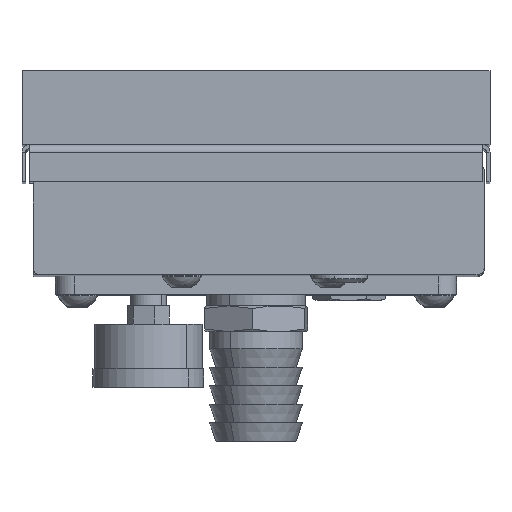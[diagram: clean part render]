
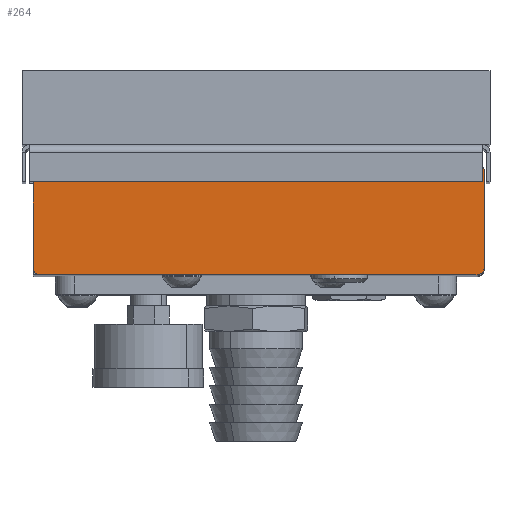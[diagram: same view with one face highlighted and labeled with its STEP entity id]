
A CAD part, top view. The second image highlights one B-rep face of the part: STEP entity #264.
In plain terms, the highlighted planar face has unit normal (0, 0, 1).
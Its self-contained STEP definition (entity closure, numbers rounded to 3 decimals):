
#264 = ADVANCED_FACE ( 'NONE', ( #8575 ), #2675, .T. ) ;
#2186 = DIRECTION ( 'NONE',  ( 1., 0., 0. ) ) ;
#2191 = CARTESIAN_POINT ( 'NONE',  ( 60.115, -2.304, 151. ) ) ;
#2276 = CARTESIAN_POINT ( 'NONE',  ( 58.115, 25.696, 151. ) ) ;
#2277 = DIRECTION ( 'NONE',  ( 0., 0., -1. ) ) ;
#2278 = DIRECTION ( 'NONE',  ( 1., 0., 0. ) ) ;
#2282 = DIRECTION ( 'NONE',  ( -1., 0., 0. ) ) ;
#2283 = CARTESIAN_POINT ( 'NONE',  ( 60.115, 27.696, 151. ) ) ;
#2287 = DIRECTION ( 'NONE',  ( 0., 1., 0. ) ) ;
#2288 = CARTESIAN_POINT ( 'NONE',  ( 60.115, -2.304, 151. ) ) ;
#2299 = CARTESIAN_POINT ( 'NONE',  ( -61.385, -2.304, 151. ) ) ;
#2300 = DIRECTION ( 'NONE',  ( 0., -1., 0. ) ) ;
#2301 = CARTESIAN_POINT ( 'NONE',  ( 58.115, -0.304, 151. ) ) ;
#2302 = DIRECTION ( 'NONE',  ( 0., 0., -1. ) ) ;
#2303 = DIRECTION ( 'NONE',  ( 1., 0., 0. ) ) ;
#2310 = CARTESIAN_POINT ( 'NONE',  ( -59.385, -0.304, 151. ) ) ;
#2311 = DIRECTION ( 'NONE',  ( 0., 0., -1. ) ) ;
#2312 = DIRECTION ( 'NONE',  ( 1., 0., 0. ) ) ;
#2326 = CARTESIAN_POINT ( 'NONE',  ( -59.385, 25.696, 151. ) ) ;
#2327 = DIRECTION ( 'NONE',  ( 0., 0., -1. ) ) ;
#2328 = DIRECTION ( 'NONE',  ( 1., 0., 0. ) ) ;
#2663 = DIRECTION ( 'NONE',  ( 1., 0., 0. ) ) ;
#2664 = DIRECTION ( 'NONE',  ( 0., 0., 1. ) ) ;
#2665 = CARTESIAN_POINT ( 'NONE',  ( 60.115, 27.696, 151. ) ) ;
#2675 = PLANE ( 'NONE',  #11450 ) ;
#4579 = CIRCLE ( 'NONE', #20058, 2. ) ;
#4588 = LINE ( 'NONE', #2283, #4592 ) ;
#4592 = VECTOR ( 'NONE', #2282, 1000. ) ;
#4594 = LINE ( 'NONE', #2288, #4596 ) ;
#4596 = VECTOR ( 'NONE', #2287, 1000. ) ;
#4599 = LINE ( 'NONE', #2299, #4602 ) ;
#4601 = CIRCLE ( 'NONE', #20053, 2. ) ;
#4602 = VECTOR ( 'NONE', #2300, 1000. ) ;
#4604 = CIRCLE ( 'NONE', #20051, 2. ) ;
#4618 = CIRCLE ( 'NONE', #20050, 2. ) ;
#8575 = FACE_OUTER_BOUND ( 'NONE', #16414, .T. ) ;
#8697 = ORIENTED_EDGE ( 'NONE', *, *, #12651, .F. ) ;
#8709 = ORIENTED_EDGE ( 'NONE', *, *, #12664, .F. ) ;
#8761 = ORIENTED_EDGE ( 'NONE', *, *, #12658, .T. ) ;
#8858 = ORIENTED_EDGE ( 'NONE', *, *, #12655, .T. ) ;
#8903 = ORIENTED_EDGE ( 'NONE', *, *, #12672, .F. ) ;
#8970 = ORIENTED_EDGE ( 'NONE', *, *, #12661, .T. ) ;
#11082 = LINE ( 'NONE', #2191, #11089 ) ;
#11089 = VECTOR ( 'NONE', #2186, 1000. ) ;
#11450 = AXIS2_PLACEMENT_3D ( 'NONE', #2665, #2664, #2663 ) ;
#12615 = EDGE_CURVE ( 'NONE', #17065, #16541, #11082, .T. ) ;
#12651 = EDGE_CURVE ( 'NONE', #17090, #17045, #4579, .T. ) ;
#12655 = EDGE_CURVE ( 'NONE', #17090, #17373, #4588, .T. ) ;
#12658 = EDGE_CURVE ( 'NONE', #16487, #17045, #4594, .T. ) ;
#12661 = EDGE_CURVE ( 'NONE', #16483, #16564, #4599, .T. ) ;
#12662 = EDGE_CURVE ( 'NONE', #16487, #16541, #4601, .T. ) ;
#12664 = EDGE_CURVE ( 'NONE', #17065, #16564, #4604, .T. ) ;
#12672 = EDGE_CURVE ( 'NONE', #16483, #17373, #4618, .T. ) ;
#13459 = CARTESIAN_POINT ( 'NONE',  ( -61.385, 25.696, 151. ) ) ;
#13469 = CARTESIAN_POINT ( 'NONE',  ( 60.115, -0.304, 151. ) ) ;
#13509 = CARTESIAN_POINT ( 'NONE',  ( 58.115, -2.304, 151. ) ) ;
#13532 = CARTESIAN_POINT ( 'NONE',  ( -61.385, -0.304, 151. ) ) ;
#13851 = CARTESIAN_POINT ( 'NONE',  ( 60.115, 25.696, 151. ) ) ;
#13866 = CARTESIAN_POINT ( 'NONE',  ( -59.385, -2.304, 151. ) ) ;
#13886 = CARTESIAN_POINT ( 'NONE',  ( 58.115, 27.696, 151. ) ) ;
#14029 = CARTESIAN_POINT ( 'NONE',  ( -59.385, 27.696, 151. ) ) ;
#16414 = EDGE_LOOP ( 'NONE', ( #8761, #8697, #8858, #8903, #8970, #8709, #18642, #18855 ) ) ;
#16483 = VERTEX_POINT ( 'NONE', #13459 ) ;
#16487 = VERTEX_POINT ( 'NONE', #13469 ) ;
#16541 = VERTEX_POINT ( 'NONE', #13509 ) ;
#16564 = VERTEX_POINT ( 'NONE', #13532 ) ;
#17045 = VERTEX_POINT ( 'NONE', #13851 ) ;
#17065 = VERTEX_POINT ( 'NONE', #13866 ) ;
#17090 = VERTEX_POINT ( 'NONE', #13886 ) ;
#17373 = VERTEX_POINT ( 'NONE', #14029 ) ;
#18642 = ORIENTED_EDGE ( 'NONE', *, *, #12615, .T. ) ;
#18855 = ORIENTED_EDGE ( 'NONE', *, *, #12662, .F. ) ;
#20050 = AXIS2_PLACEMENT_3D ( 'NONE', #2326, #2327, #2328 ) ;
#20051 = AXIS2_PLACEMENT_3D ( 'NONE', #2310, #2311, #2312 ) ;
#20053 = AXIS2_PLACEMENT_3D ( 'NONE', #2301, #2302, #2303 ) ;
#20058 = AXIS2_PLACEMENT_3D ( 'NONE', #2276, #2277, #2278 ) ;
